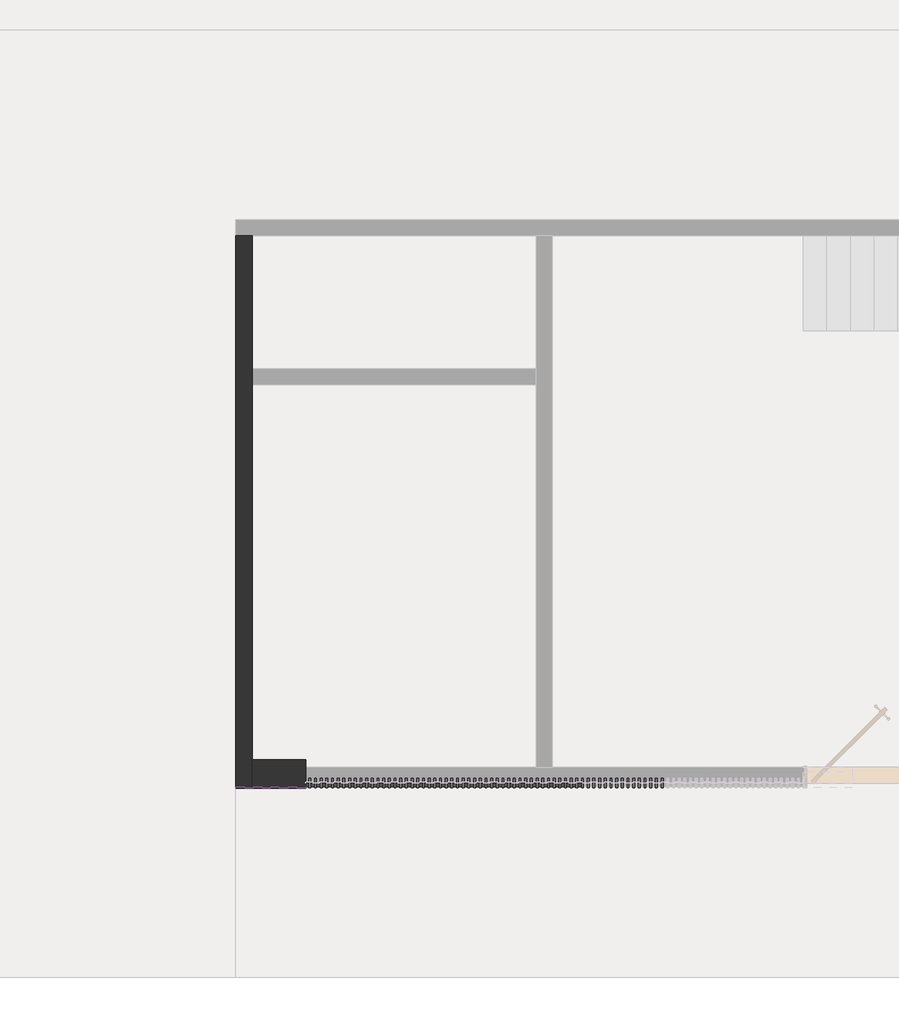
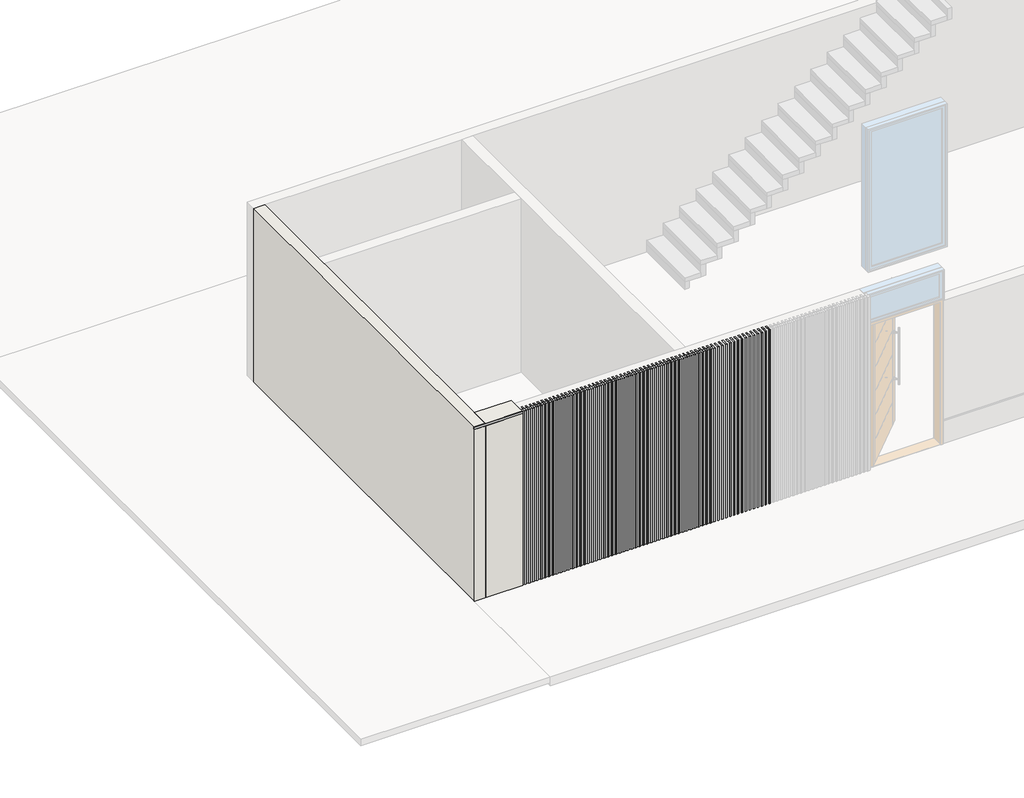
# One storey, part 1 of 4: 63 plates, 49 members, 2 walls, 1 proxy.
"""IFC4 building model written with IfcOpenShell, lengths in millimetres."""

from ifc_helpers import new_model, si_unit, frame, origin, place, context, project, spatial, polyline, outline, extrude, faceted_brep, transform, mapped, element, save
from components import montante_retangular_4dd091b7, painel_do_sistema_vazio_vazio_22f7d0d9

model = new_model("IFC4")

# Units and contexts
model_context = context("Model", 3, world=origin())
ifc_project = project(units=[si_unit("LENGTHUNIT", "METRE", prefix="MILLI")], contexts=[model_context])

# Site, building, storey
site = spatial("IfcSite", under=ifc_project)
building = spatial("IfcBuilding", under=site)
storey = spatial("IfcBuildingStorey", under=building, Name="TÉRREO", Elevation=100.0)

# Proxy
placement = place(None, origin())
element("IfcBuildingElementProxy", 1, Name="FRISO 01", ObjectType="FRISO 01", at=placement, inside=storey, context=model_context, shape_type="SweptSolid", body=[
    extrude(outline(polyline([(-13541.5118355, -3233.9118273), (-13541.5118355, -3218.9118273), (-12806.5118355, -3218.9118273), (-12806.5118355, -3233.9118273), (-13541.5118355, -3233.9118273)])), frame((0.0, 0.0, 2870.0), z_axis=(0.0, 0.0, 1.0), x_axis=(1.0, 0.0, 0.0)), (0.0, 0.0, 1.0), 30.0),
])

# Members
montante_retangular_shape = montante_retangular_4dd091b7(model_context)
element("IfcMember", 2, ObjectType="Montante retangular : RIPADO CUMARU 4x4", at=placement, inside=storey, context=model_context, shape_type="MappedRepresentation", body=[
    mapped(montante_retangular_shape, transform((-10151.5118358, -3183.0556256, 100.0), x_axis=(-1.0, 0.0, 0.0), y_axis=(0.0, 1.0, 0.0), z_axis=(0.0, 0.0, -1.0))),
])
element("IfcMember", 3, ObjectType="Montante retangular : RIPADO CUMARU 4x4", at=placement, inside=storey, context=model_context, shape_type="MappedRepresentation", body=[
    mapped(montante_retangular_shape, transform((-10211.5118358, -3183.0556256, 100.0), x_axis=(-1.0, 0.0, 0.0), y_axis=(0.0, 1.0, 0.0), z_axis=(0.0, 0.0, -1.0))),
])
element("IfcMember", 4, ObjectType="Montante retangular : RIPADO CUMARU 4x4", at=placement, inside=storey, context=model_context, shape_type="MappedRepresentation", body=[
    mapped(montante_retangular_shape, transform((-10271.5118358, -3183.0556256, 100.0), x_axis=(-1.0, 0.0, 0.0), y_axis=(0.0, 1.0, 0.0), z_axis=(0.0, 0.0, -1.0))),
])
element("IfcMember", 5, ObjectType="Montante retangular : RIPADO CUMARU 4x4", at=placement, inside=storey, context=model_context, shape_type="MappedRepresentation", body=[
    mapped(montante_retangular_shape, transform((-10331.5118358, -3183.0556256, 100.0), x_axis=(-1.0, 0.0, 0.0), y_axis=(0.0, 1.0, 0.0), z_axis=(0.0, 0.0, -1.0))),
])
element("IfcMember", 6, ObjectType="Montante retangular : RIPADO CUMARU 4x4", at=placement, inside=storey, context=model_context, shape_type="MappedRepresentation", body=[
    mapped(montante_retangular_shape, transform((-10391.5118358, -3183.0556256, 100.0), x_axis=(-1.0, 0.0, 0.0), y_axis=(0.0, 1.0, 0.0), z_axis=(0.0, 0.0, -1.0))),
])
element("IfcMember", 7, ObjectType="Montante retangular : RIPADO CUMARU 4x4", at=placement, inside=storey, context=model_context, shape_type="MappedRepresentation", body=[
    mapped(montante_retangular_shape, transform((-10451.5118358, -3183.0556256, 100.0), x_axis=(-1.0, 0.0, 0.0), y_axis=(0.0, 1.0, 0.0), z_axis=(0.0, 0.0, -1.0))),
])
element("IfcMember", 8, ObjectType="Montante retangular : RIPADO CUMARU 4x4", at=placement, inside=storey, context=model_context, shape_type="MappedRepresentation", body=[
    mapped(montante_retangular_shape, transform((-10511.5118358, -3183.0556256, 100.0), x_axis=(-1.0, 0.0, 0.0), y_axis=(0.0, 1.0, 0.0), z_axis=(0.0, 0.0, -1.0))),
])
element("IfcMember", 9, ObjectType="Montante retangular : RIPADO CUMARU 4x4", at=placement, inside=storey, context=model_context, shape_type="MappedRepresentation", body=[
    mapped(montante_retangular_shape, transform((-10571.5118358, -3183.0556256, 100.0), x_axis=(-1.0, 0.0, 0.0), y_axis=(0.0, 1.0, 0.0), z_axis=(0.0, 0.0, -1.0))),
])
element("IfcMember", 10, ObjectType="Montante retangular : RIPADO CUMARU 4x4", at=placement, inside=storey, context=model_context, shape_type="MappedRepresentation", body=[
    mapped(montante_retangular_shape, transform((-10631.5118358, -3183.0556256, 100.0), x_axis=(-1.0, 0.0, 0.0), y_axis=(0.0, 1.0, 0.0), z_axis=(0.0, 0.0, -1.0))),
])
element("IfcMember", 11, ObjectType="Montante retangular : RIPADO CUMARU 4x4", at=placement, inside=storey, context=model_context, shape_type="MappedRepresentation", body=[
    mapped(montante_retangular_shape, transform((-10691.5118358, -3183.0556256, 100.0), x_axis=(-1.0, 0.0, 0.0), y_axis=(0.0, 1.0, 0.0), z_axis=(0.0, 0.0, -1.0))),
])
element("IfcMember", 12, ObjectType="Montante retangular : RIPADO CUMARU 4x4", at=placement, inside=storey, context=model_context, shape_type="MappedRepresentation", body=[
    mapped(montante_retangular_shape, transform((-10751.5118358, -3183.0556256, 100.0), x_axis=(-1.0, 0.0, 0.0), y_axis=(0.0, 1.0, 0.0), z_axis=(0.0, 0.0, -1.0))),
])
element("IfcMember", 13, ObjectType="Montante retangular : RIPADO CUMARU 4x4", at=placement, inside=storey, context=model_context, shape_type="MappedRepresentation", body=[
    mapped(montante_retangular_shape, transform((-10811.5118358, -3183.0556256, 100.0), x_axis=(-1.0, 0.0, 0.0), y_axis=(0.0, 1.0, 0.0), z_axis=(0.0, 0.0, -1.0))),
])
element("IfcMember", 14, ObjectType="Montante retangular : RIPADO CUMARU 4x4", at=placement, inside=storey, context=model_context, shape_type="MappedRepresentation", body=[
    mapped(montante_retangular_shape, transform((-10871.5118358, -3183.0556256, 100.0), x_axis=(-1.0, 0.0, 0.0), y_axis=(0.0, 1.0, 0.0), z_axis=(0.0, 0.0, -1.0))),
])
element("IfcMember", 15, ObjectType="Montante retangular : RIPADO CUMARU 4x4", at=placement, inside=storey, context=model_context, shape_type="MappedRepresentation", body=[
    mapped(montante_retangular_shape, transform((-10931.5118358, -3183.0556256, 100.0), x_axis=(-1.0, 0.0, 0.0), y_axis=(0.0, 1.0, 0.0), z_axis=(0.0, 0.0, -1.0))),
])
element("IfcMember", 16, ObjectType="Montante retangular : RIPADO CUMARU 4x4", at=placement, inside=storey, context=model_context, shape_type="MappedRepresentation", body=[
    mapped(montante_retangular_shape, transform((-10991.5118358, -3183.0556256, 100.0), x_axis=(-1.0, 0.0, 0.0), y_axis=(0.0, 1.0, 0.0), z_axis=(0.0, 0.0, -1.0))),
])
element("IfcMember", 17, ObjectType="Montante retangular : RIPADO CUMARU 4x4", at=placement, inside=storey, context=model_context, shape_type="MappedRepresentation", body=[
    mapped(montante_retangular_shape, transform((-11051.5118358, -3183.0556256, 100.0), x_axis=(-1.0, 0.0, 0.0), y_axis=(0.0, 1.0, 0.0), z_axis=(0.0, 0.0, -1.0))),
])
element("IfcMember", 18, ObjectType="Montante retangular : RIPADO CUMARU 4x4", at=placement, inside=storey, context=model_context, shape_type="MappedRepresentation", body=[
    mapped(montante_retangular_shape, transform((-11111.5118358, -3183.0556256, 100.0), x_axis=(-1.0, 0.0, 0.0), y_axis=(0.0, 1.0, 0.0), z_axis=(0.0, 0.0, -1.0))),
])
element("IfcMember", 19, ObjectType="Montante retangular : RIPADO CUMARU 4x4", at=placement, inside=storey, context=model_context, shape_type="MappedRepresentation", body=[
    mapped(montante_retangular_shape, transform((-11171.5118358, -3183.0556256, 100.0), x_axis=(-1.0, 0.0, 0.0), y_axis=(0.0, 1.0, 0.0), z_axis=(0.0, 0.0, -1.0))),
])
element("IfcMember", 20, ObjectType="Montante retangular : RIPADO CUMARU 4x4", at=placement, inside=storey, context=model_context, shape_type="MappedRepresentation", body=[
    mapped(montante_retangular_shape, transform((-11231.5118358, -3183.0556256, 100.0), x_axis=(-1.0, 0.0, 0.0), y_axis=(0.0, 1.0, 0.0), z_axis=(0.0, 0.0, -1.0))),
])
element("IfcMember", 21, ObjectType="Montante retangular : RIPADO CUMARU 4x4", at=placement, inside=storey, context=model_context, shape_type="MappedRepresentation", body=[
    mapped(montante_retangular_shape, transform((-11291.5118358, -3183.0556256, 100.0), x_axis=(-1.0, 0.0, 0.0), y_axis=(0.0, 1.0, 0.0), z_axis=(0.0, 0.0, -1.0))),
])
element("IfcMember", 22, ObjectType="Montante retangular : RIPADO CUMARU 4x4", at=placement, inside=storey, context=model_context, shape_type="MappedRepresentation", body=[
    mapped(montante_retangular_shape, transform((-11351.5118358, -3183.0556256, 100.0), x_axis=(-1.0, 0.0, 0.0), y_axis=(0.0, 1.0, 0.0), z_axis=(0.0, 0.0, -1.0))),
])
element("IfcMember", 23, ObjectType="Montante retangular : RIPADO CUMARU 4x4", at=placement, inside=storey, context=model_context, shape_type="MappedRepresentation", body=[
    mapped(montante_retangular_shape, transform((-11411.5118358, -3183.0556256, 100.0), x_axis=(-1.0, 0.0, 0.0), y_axis=(0.0, 1.0, 0.0), z_axis=(0.0, 0.0, -1.0))),
])
element("IfcMember", 24, ObjectType="Montante retangular : RIPADO CUMARU 4x4", at=placement, inside=storey, context=model_context, shape_type="MappedRepresentation", body=[
    mapped(montante_retangular_shape, transform((-11471.5118358, -3183.0556256, 100.0), x_axis=(-1.0, 0.0, 0.0), y_axis=(0.0, 1.0, 0.0), z_axis=(0.0, 0.0, -1.0))),
])
element("IfcMember", 25, ObjectType="Montante retangular : RIPADO CUMARU 4x4", at=placement, inside=storey, context=model_context, shape_type="MappedRepresentation", body=[
    mapped(montante_retangular_shape, transform((-11531.5118358, -3183.0556256, 100.0), x_axis=(-1.0, 0.0, 0.0), y_axis=(0.0, 1.0, 0.0), z_axis=(0.0, 0.0, -1.0))),
])
element("IfcMember", 26, ObjectType="Montante retangular : RIPADO CUMARU 4x4", at=placement, inside=storey, context=model_context, shape_type="MappedRepresentation", body=[
    mapped(montante_retangular_shape, transform((-11591.5118358, -3183.0556256, 100.0), x_axis=(-1.0, 0.0, 0.0), y_axis=(0.0, 1.0, 0.0), z_axis=(0.0, 0.0, -1.0))),
])
element("IfcMember", 27, ObjectType="Montante retangular : RIPADO CUMARU 4x4", at=placement, inside=storey, context=model_context, shape_type="MappedRepresentation", body=[
    mapped(montante_retangular_shape, transform((-11651.5118358, -3183.0556256, 100.0), x_axis=(-1.0, 0.0, 0.0), y_axis=(0.0, 1.0, 0.0), z_axis=(0.0, 0.0, -1.0))),
])
element("IfcMember", 28, ObjectType="Montante retangular : RIPADO CUMARU 4x4", at=placement, inside=storey, context=model_context, shape_type="MappedRepresentation", body=[
    mapped(montante_retangular_shape, transform((-11711.5118358, -3183.0556256, 100.0), x_axis=(-1.0, 0.0, 0.0), y_axis=(0.0, 1.0, 0.0), z_axis=(0.0, 0.0, -1.0))),
])
element("IfcMember", 29, ObjectType="Montante retangular : RIPADO CUMARU 4x4", at=placement, inside=storey, context=model_context, shape_type="MappedRepresentation", body=[
    mapped(montante_retangular_shape, transform((-11771.5118358, -3183.0556256, 100.0), x_axis=(-1.0, 0.0, 0.0), y_axis=(0.0, 1.0, 0.0), z_axis=(0.0, 0.0, -1.0))),
])
element("IfcMember", 30, ObjectType="Montante retangular : RIPADO CUMARU 4x4", at=placement, inside=storey, context=model_context, shape_type="MappedRepresentation", body=[
    mapped(montante_retangular_shape, transform((-11831.5118358, -3183.0556256, 100.0), x_axis=(-1.0, 0.0, 0.0), y_axis=(0.0, 1.0, 0.0), z_axis=(0.0, 0.0, -1.0))),
])
element("IfcMember", 31, ObjectType="Montante retangular : RIPADO CUMARU 4x4", at=placement, inside=storey, context=model_context, shape_type="MappedRepresentation", body=[
    mapped(montante_retangular_shape, transform((-11891.5118358, -3183.0556256, 100.0), x_axis=(-1.0, 0.0, 0.0), y_axis=(0.0, 1.0, 0.0), z_axis=(0.0, 0.0, -1.0))),
])
element("IfcMember", 32, ObjectType="Montante retangular : RIPADO CUMARU 4x4", at=placement, inside=storey, context=model_context, shape_type="MappedRepresentation", body=[
    mapped(montante_retangular_shape, transform((-11951.5118358, -3183.0556256, 100.0), x_axis=(-1.0, 0.0, 0.0), y_axis=(0.0, 1.0, 0.0), z_axis=(0.0, 0.0, -1.0))),
])
element("IfcMember", 33, ObjectType="Montante retangular : RIPADO CUMARU 4x4", at=placement, inside=storey, context=model_context, shape_type="MappedRepresentation", body=[
    mapped(montante_retangular_shape, transform((-12011.5118358, -3183.0556256, 100.0), x_axis=(-1.0, 0.0, 0.0), y_axis=(0.0, 1.0, 0.0), z_axis=(0.0, 0.0, -1.0))),
])
element("IfcMember", 34, ObjectType="Montante retangular : RIPADO CUMARU 4x4", at=placement, inside=storey, context=model_context, shape_type="MappedRepresentation", body=[
    mapped(montante_retangular_shape, transform((-12071.5118358, -3183.0556256, 100.0), x_axis=(-1.0, 0.0, 0.0), y_axis=(0.0, 1.0, 0.0), z_axis=(0.0, 0.0, -1.0))),
])
element("IfcMember", 35, ObjectType="Montante retangular : RIPADO CUMARU 4x4", at=placement, inside=storey, context=model_context, shape_type="MappedRepresentation", body=[
    mapped(montante_retangular_shape, transform((-12131.5118358, -3183.0556256, 100.0), x_axis=(-1.0, 0.0, 0.0), y_axis=(0.0, 1.0, 0.0), z_axis=(0.0, 0.0, -1.0))),
])
element("IfcMember", 36, ObjectType="Montante retangular : RIPADO CUMARU 4x4", at=placement, inside=storey, context=model_context, shape_type="MappedRepresentation", body=[
    mapped(montante_retangular_shape, transform((-12191.5118358, -3183.0556256, 100.0), x_axis=(-1.0, 0.0, 0.0), y_axis=(0.0, 1.0, 0.0), z_axis=(0.0, 0.0, -1.0))),
])
element("IfcMember", 37, ObjectType="Montante retangular : RIPADO CUMARU 4x4", at=placement, inside=storey, context=model_context, shape_type="MappedRepresentation", body=[
    mapped(montante_retangular_shape, transform((-12251.5118358, -3183.0556256, 100.0), x_axis=(-1.0, 0.0, 0.0), y_axis=(0.0, 1.0, 0.0), z_axis=(0.0, 0.0, -1.0))),
])
element("IfcMember", 38, ObjectType="Montante retangular : RIPADO CUMARU 4x4", at=placement, inside=storey, context=model_context, shape_type="MappedRepresentation", body=[
    mapped(montante_retangular_shape, transform((-12311.5118358, -3183.0556256, 100.0), x_axis=(-1.0, 0.0, 0.0), y_axis=(0.0, 1.0, 0.0), z_axis=(0.0, 0.0, -1.0))),
])
element("IfcMember", 39, ObjectType="Montante retangular : RIPADO CUMARU 4x4", at=placement, inside=storey, context=model_context, shape_type="MappedRepresentation", body=[
    mapped(montante_retangular_shape, transform((-12371.5118358, -3183.0556256, 100.0), x_axis=(-1.0, 0.0, 0.0), y_axis=(0.0, 1.0, 0.0), z_axis=(0.0, 0.0, -1.0))),
])
element("IfcMember", 40, ObjectType="Montante retangular : RIPADO CUMARU 4x4", at=placement, inside=storey, context=model_context, shape_type="MappedRepresentation", body=[
    mapped(montante_retangular_shape, transform((-12431.5118358, -3183.0556256, 100.0), x_axis=(-1.0, 0.0, 0.0), y_axis=(0.0, 1.0, 0.0), z_axis=(0.0, 0.0, -1.0))),
])
element("IfcMember", 41, ObjectType="Montante retangular : RIPADO CUMARU 4x4", at=placement, inside=storey, context=model_context, shape_type="MappedRepresentation", body=[
    mapped(montante_retangular_shape, transform((-12491.5118358, -3183.0556256, 100.0), x_axis=(-1.0, 0.0, 0.0), y_axis=(0.0, 1.0, 0.0), z_axis=(0.0, 0.0, -1.0))),
])
element("IfcMember", 42, ObjectType="Montante retangular : RIPADO CUMARU 4x4", at=placement, inside=storey, context=model_context, shape_type="MappedRepresentation", body=[
    mapped(montante_retangular_shape, transform((-12551.5118358, -3183.0556256, 100.0), x_axis=(-1.0, 0.0, 0.0), y_axis=(0.0, 1.0, 0.0), z_axis=(0.0, 0.0, -1.0))),
])
element("IfcMember", 43, ObjectType="Montante retangular : RIPADO CUMARU 4x4", at=placement, inside=storey, context=model_context, shape_type="MappedRepresentation", body=[
    mapped(montante_retangular_shape, transform((-12611.5118358, -3183.0556256, 100.0), x_axis=(-1.0, 0.0, 0.0), y_axis=(0.0, 1.0, 0.0), z_axis=(0.0, 0.0, -1.0))),
])
element("IfcMember", 44, ObjectType="Montante retangular : RIPADO CUMARU 4x4", at=placement, inside=storey, context=model_context, shape_type="MappedRepresentation", body=[
    mapped(montante_retangular_shape, transform((-12671.5118358, -3183.0556256, 100.0), x_axis=(-1.0, 0.0, 0.0), y_axis=(0.0, 1.0, 0.0), z_axis=(0.0, 0.0, -1.0))),
])
element("IfcMember", 45, ObjectType="Montante retangular : RIPADO CUMARU 4x4", at=placement, inside=storey, context=model_context, shape_type="MappedRepresentation", body=[
    mapped(montante_retangular_shape, transform((-12731.5118358, -3183.0556256, 100.0), x_axis=(-1.0, 0.0, 0.0), y_axis=(0.0, 1.0, 0.0), z_axis=(0.0, 0.0, -1.0))),
])
element("IfcMember", 46, ObjectType="Montante retangular : RIPADO CUMARU 4x4", at=placement, inside=storey, context=model_context, shape_type="MappedRepresentation", body=[
    mapped(montante_retangular_shape, transform((-12791.5118358, -3183.0556256, 100.0), x_axis=(-1.0, 0.0, 0.0), y_axis=(0.0, 1.0, 0.0), z_axis=(0.0, 0.0, -1.0))),
])
element("IfcMember", 47, ObjectType="Montante retangular : RIPADO CUMARU 4x4", at=placement, inside=storey, context=model_context, shape_type="MappedRepresentation", body=[
    mapped(montante_retangular_shape, transform((-10091.5118358, -3183.0556256, 100.0), x_axis=(-1.0, 0.0, 0.0), y_axis=(0.0, 1.0, 0.0), z_axis=(0.0, 0.0, -1.0))),
])
element("IfcMember", 48, ObjectType="Montante retangular : RIPADO CUMARU 4x4", at=placement, inside=storey, context=model_context, shape_type="MappedRepresentation", body=[
    mapped(montante_retangular_shape, transform((-10031.5118358, -3183.0556256, 100.0), x_axis=(-1.0, 0.0, 0.0), y_axis=(0.0, 1.0, 0.0), z_axis=(0.0, 0.0, -1.0))),
])
element("IfcMember", 49, ObjectType="Montante retangular : RIPADO CUMARU 4x4", at=placement, inside=storey, context=model_context, shape_type="MappedRepresentation", body=[
    mapped(montante_retangular_shape, transform((-9971.5118358, -3183.0556256, 100.0), x_axis=(-1.0, 0.0, 0.0), y_axis=(0.0, 1.0, 0.0), z_axis=(0.0, 0.0, -1.0))),
])
element("IfcMember", 50, ObjectType="Montante retangular : RIPADO CUMARU 4x4", at=placement, inside=storey, context=model_context, shape_type="MappedRepresentation", body=[
    mapped(montante_retangular_shape, transform((-9911.5118358, -3183.0556256, 100.0), x_axis=(-1.0, 0.0, 0.0), y_axis=(0.0, 1.0, 0.0), z_axis=(0.0, 0.0, -1.0))),
])

# Plates
painel_do_sistema_vazio_vazio_shape = painel_do_sistema_vazio_vazio_22f7d0d9(model_context)
element("IfcPlate", 51, ObjectType="Painel do sistema vazio : Vazio", at=placement, inside=storey, context=model_context, shape_type="MappedRepresentation", body=[
    mapped(painel_do_sistema_vazio_vazio_shape, transform((-10181.5118358, -3183.0556256, 100.0), x_axis=(-1.0, 0.0, 0.0), y_axis=(0.0, -1.0, 0.0), z_axis=(0.0, 0.0, 1.0))),
])
element("IfcPlate", 52, ObjectType="Painel do sistema vazio : Vazio", at=placement, inside=storey, context=model_context, shape_type="MappedRepresentation", body=[
    mapped(painel_do_sistema_vazio_vazio_shape, transform((-10241.5118358, -3183.0556256, 100.0), x_axis=(-1.0, 0.0, 0.0), y_axis=(0.0, -1.0, 0.0), z_axis=(0.0, 0.0, 1.0))),
])
element("IfcPlate", 53, ObjectType="Painel do sistema vazio : Vazio", at=placement, inside=storey, context=model_context, shape_type="MappedRepresentation", body=[
    mapped(painel_do_sistema_vazio_vazio_shape, transform((-10301.5118358, -3183.0556256, 100.0), x_axis=(-1.0, 0.0, 0.0), y_axis=(0.0, -1.0, 0.0), z_axis=(0.0, 0.0, 1.0))),
])
element("IfcPlate", 54, ObjectType="Painel do sistema vazio : Vazio", at=placement, inside=storey, context=model_context, shape_type="MappedRepresentation", body=[
    mapped(painel_do_sistema_vazio_vazio_shape, transform((-10361.5118358, -3183.0556256, 100.0), x_axis=(-1.0, 0.0, 0.0), y_axis=(0.0, -1.0, 0.0), z_axis=(0.0, 0.0, 1.0))),
])
element("IfcPlate", 55, ObjectType="Painel do sistema vazio : Vazio", at=placement, inside=storey, context=model_context, shape_type="MappedRepresentation", body=[
    mapped(painel_do_sistema_vazio_vazio_shape, transform((-10421.5118358, -3183.0556256, 100.0), x_axis=(-1.0, 0.0, 0.0), y_axis=(0.0, -1.0, 0.0), z_axis=(0.0, 0.0, 1.0))),
])
element("IfcPlate", 56, ObjectType="Painel do sistema vazio : Vazio", at=placement, inside=storey, context=model_context, shape_type="MappedRepresentation", body=[
    mapped(painel_do_sistema_vazio_vazio_shape, transform((-10481.5118358, -3183.0556256, 100.0), x_axis=(-1.0, 0.0, 0.0), y_axis=(0.0, -1.0, 0.0), z_axis=(0.0, 0.0, 1.0))),
])
element("IfcPlate", 57, ObjectType="Painel do sistema vazio : Vazio", at=placement, inside=storey, context=model_context, shape_type="MappedRepresentation", body=[
    mapped(painel_do_sistema_vazio_vazio_shape, transform((-10541.5118358, -3183.0556256, 100.0), x_axis=(-1.0, 0.0, 0.0), y_axis=(0.0, -1.0, 0.0), z_axis=(0.0, 0.0, 1.0))),
])
element("IfcPlate", 58, ObjectType="Painel do sistema vazio : Vazio", at=placement, inside=storey, context=model_context, shape_type="MappedRepresentation", body=[
    mapped(painel_do_sistema_vazio_vazio_shape, transform((-10601.5118358, -3183.0556256, 100.0), x_axis=(-1.0, 0.0, 0.0), y_axis=(0.0, -1.0, 0.0), z_axis=(0.0, 0.0, 1.0))),
])
element("IfcPlate", 59, ObjectType="Painel do sistema vazio : Vazio", at=placement, inside=storey, context=model_context, shape_type="MappedRepresentation", body=[
    mapped(painel_do_sistema_vazio_vazio_shape, transform((-10661.5118358, -3183.0556256, 100.0), x_axis=(-1.0, 0.0, 0.0), y_axis=(0.0, -1.0, 0.0), z_axis=(0.0, 0.0, 1.0))),
])
element("IfcPlate", 60, ObjectType="Painel do sistema vazio : Vazio", at=placement, inside=storey, context=model_context, shape_type="MappedRepresentation", body=[
    mapped(painel_do_sistema_vazio_vazio_shape, transform((-10721.5118358, -3183.0556256, 100.0), x_axis=(-1.0, 0.0, 0.0), y_axis=(0.0, -1.0, 0.0), z_axis=(0.0, 0.0, 1.0))),
])
element("IfcPlate", 61, ObjectType="Painel do sistema vazio : Vazio", at=placement, inside=storey, context=model_context, shape_type="MappedRepresentation", body=[
    mapped(painel_do_sistema_vazio_vazio_shape, transform((-10781.5118358, -3183.0556256, 100.0), x_axis=(-1.0, 0.0, 0.0), y_axis=(0.0, -1.0, 0.0), z_axis=(0.0, 0.0, 1.0))),
])
element("IfcPlate", 62, ObjectType="Painel do sistema vazio : Vazio", at=placement, inside=storey, context=model_context, shape_type="MappedRepresentation", body=[
    mapped(painel_do_sistema_vazio_vazio_shape, transform((-10841.5118358, -3183.0556256, 100.0), x_axis=(-1.0, 0.0, 0.0), y_axis=(0.0, -1.0, 0.0), z_axis=(0.0, 0.0, 1.0))),
])
element("IfcPlate", 63, ObjectType="Painel do sistema vazio : Vazio", at=placement, inside=storey, context=model_context, shape_type="MappedRepresentation", body=[
    mapped(painel_do_sistema_vazio_vazio_shape, transform((-10901.5118358, -3183.0556256, 100.0), x_axis=(-1.0, 0.0, 0.0), y_axis=(0.0, -1.0, 0.0), z_axis=(0.0, 0.0, 1.0))),
])
element("IfcPlate", 64, ObjectType="Painel do sistema vazio : Vazio", at=placement, inside=storey, context=model_context, shape_type="MappedRepresentation", body=[
    mapped(painel_do_sistema_vazio_vazio_shape, transform((-10961.5118358, -3183.0556256, 100.0), x_axis=(-1.0, 0.0, 0.0), y_axis=(0.0, -1.0, 0.0), z_axis=(0.0, 0.0, 1.0))),
])
element("IfcPlate", 65, ObjectType="Painel do sistema vazio : Vazio", at=placement, inside=storey, context=model_context, shape_type="MappedRepresentation", body=[
    mapped(painel_do_sistema_vazio_vazio_shape, transform((-11021.5118358, -3183.0556256, 100.0), x_axis=(-1.0, 0.0, 0.0), y_axis=(0.0, -1.0, 0.0), z_axis=(0.0, 0.0, 1.0))),
])
element("IfcPlate", 66, ObjectType="Painel do sistema vazio : Vazio", at=placement, inside=storey, context=model_context, shape_type="MappedRepresentation", body=[
    mapped(painel_do_sistema_vazio_vazio_shape, transform((-11081.5118358, -3183.0556256, 100.0), x_axis=(-1.0, 0.0, 0.0), y_axis=(0.0, -1.0, 0.0), z_axis=(0.0, 0.0, 1.0))),
])
element("IfcPlate", 67, ObjectType="Painel do sistema vazio : Vazio", at=placement, inside=storey, context=model_context, shape_type="MappedRepresentation", body=[
    mapped(painel_do_sistema_vazio_vazio_shape, transform((-11141.5118358, -3183.0556256, 100.0), x_axis=(-1.0, 0.0, 0.0), y_axis=(0.0, -1.0, 0.0), z_axis=(0.0, 0.0, 1.0))),
])
element("IfcPlate", 68, ObjectType="Painel do sistema vazio : Vazio", at=placement, inside=storey, context=model_context, shape_type="MappedRepresentation", body=[
    mapped(painel_do_sistema_vazio_vazio_shape, transform((-11201.5118358, -3183.0556256, 100.0), x_axis=(-1.0, 0.0, 0.0), y_axis=(0.0, -1.0, 0.0), z_axis=(0.0, 0.0, 1.0))),
])
element("IfcPlate", 69, ObjectType="Painel do sistema vazio : Vazio", at=placement, inside=storey, context=model_context, shape_type="MappedRepresentation", body=[
    mapped(painel_do_sistema_vazio_vazio_shape, transform((-11261.5118358, -3183.0556256, 100.0), x_axis=(-1.0, 0.0, 0.0), y_axis=(0.0, -1.0, 0.0), z_axis=(0.0, 0.0, 1.0))),
])
element("IfcPlate", 70, ObjectType="Painel do sistema vazio : Vazio", at=placement, inside=storey, context=model_context, shape_type="MappedRepresentation", body=[
    mapped(painel_do_sistema_vazio_vazio_shape, transform((-11321.5118358, -3183.0556256, 100.0), x_axis=(-1.0, 0.0, 0.0), y_axis=(0.0, -1.0, 0.0), z_axis=(0.0, 0.0, 1.0))),
])
element("IfcPlate", 71, ObjectType="Painel do sistema vazio : Vazio", at=placement, inside=storey, context=model_context, shape_type="MappedRepresentation", body=[
    mapped(painel_do_sistema_vazio_vazio_shape, transform((-11381.5118358, -3183.0556256, 100.0), x_axis=(-1.0, 0.0, 0.0), y_axis=(0.0, -1.0, 0.0), z_axis=(0.0, 0.0, 1.0))),
])
element("IfcPlate", 72, ObjectType="Painel do sistema vazio : Vazio", at=placement, inside=storey, context=model_context, shape_type="MappedRepresentation", body=[
    mapped(painel_do_sistema_vazio_vazio_shape, transform((-11441.5118358, -3183.0556256, 100.0), x_axis=(-1.0, 0.0, 0.0), y_axis=(0.0, -1.0, 0.0), z_axis=(0.0, 0.0, 1.0))),
])
element("IfcPlate", 73, ObjectType="Painel do sistema vazio : Vazio", at=placement, inside=storey, context=model_context, shape_type="MappedRepresentation", body=[
    mapped(painel_do_sistema_vazio_vazio_shape, transform((-11501.5118358, -3183.0556256, 100.0), x_axis=(-1.0, 0.0, 0.0), y_axis=(0.0, -1.0, 0.0), z_axis=(0.0, 0.0, 1.0))),
])
element("IfcPlate", 74, ObjectType="Painel do sistema vazio : Vazio", at=placement, inside=storey, context=model_context, shape_type="MappedRepresentation", body=[
    mapped(painel_do_sistema_vazio_vazio_shape, transform((-11561.5118358, -3183.0556256, 100.0), x_axis=(-1.0, 0.0, 0.0), y_axis=(0.0, -1.0, 0.0), z_axis=(0.0, 0.0, 1.0))),
])
element("IfcPlate", 75, ObjectType="Painel do sistema vazio : Vazio", at=placement, inside=storey, context=model_context, shape_type="MappedRepresentation", body=[
    mapped(painel_do_sistema_vazio_vazio_shape, transform((-11621.5118358, -3183.0556256, 100.0), x_axis=(-1.0, 0.0, 0.0), y_axis=(0.0, -1.0, 0.0), z_axis=(0.0, 0.0, 1.0))),
])
element("IfcPlate", 76, ObjectType="Painel do sistema vazio : Vazio", at=placement, inside=storey, context=model_context, shape_type="MappedRepresentation", body=[
    mapped(painel_do_sistema_vazio_vazio_shape, transform((-11681.5118358, -3183.0556256, 100.0), x_axis=(-1.0, 0.0, 0.0), y_axis=(0.0, -1.0, 0.0), z_axis=(0.0, 0.0, 1.0))),
])
element("IfcPlate", 77, ObjectType="Painel do sistema vazio : Vazio", at=placement, inside=storey, context=model_context, shape_type="MappedRepresentation", body=[
    mapped(painel_do_sistema_vazio_vazio_shape, transform((-11741.5118358, -3183.0556256, 100.0), x_axis=(-1.0, 0.0, 0.0), y_axis=(0.0, -1.0, 0.0), z_axis=(0.0, 0.0, 1.0))),
])
element("IfcPlate", 78, ObjectType="Painel do sistema vazio : Vazio", at=placement, inside=storey, context=model_context, shape_type="MappedRepresentation", body=[
    mapped(painel_do_sistema_vazio_vazio_shape, transform((-11801.5118358, -3183.0556256, 100.0), x_axis=(-1.0, 0.0, 0.0), y_axis=(0.0, -1.0, 0.0), z_axis=(0.0, 0.0, 1.0))),
])
element("IfcPlate", 79, ObjectType="Painel do sistema vazio : Vazio", at=placement, inside=storey, context=model_context, shape_type="MappedRepresentation", body=[
    mapped(painel_do_sistema_vazio_vazio_shape, transform((-11861.5118358, -3183.0556256, 100.0), x_axis=(-1.0, 0.0, 0.0), y_axis=(0.0, -1.0, 0.0), z_axis=(0.0, 0.0, 1.0))),
])
element("IfcPlate", 80, ObjectType="Painel do sistema vazio : Vazio", at=placement, inside=storey, context=model_context, shape_type="MappedRepresentation", body=[
    mapped(painel_do_sistema_vazio_vazio_shape, transform((-11921.5118358, -3183.0556256, 100.0), x_axis=(-1.0, 0.0, 0.0), y_axis=(0.0, -1.0, 0.0), z_axis=(0.0, 0.0, 1.0))),
])
element("IfcPlate", 81, ObjectType="Painel do sistema vazio : Vazio", at=placement, inside=storey, context=model_context, shape_type="MappedRepresentation", body=[
    mapped(painel_do_sistema_vazio_vazio_shape, transform((-11981.5118358, -3183.0556256, 100.0), x_axis=(-1.0, 0.0, 0.0), y_axis=(0.0, -1.0, 0.0), z_axis=(0.0, 0.0, 1.0))),
])
element("IfcPlate", 82, ObjectType="Painel do sistema vazio : Vazio", at=placement, inside=storey, context=model_context, shape_type="MappedRepresentation", body=[
    mapped(painel_do_sistema_vazio_vazio_shape, transform((-12041.5118358, -3183.0556256, 100.0), x_axis=(-1.0, 0.0, 0.0), y_axis=(0.0, -1.0, 0.0), z_axis=(0.0, 0.0, 1.0))),
])
element("IfcPlate", 83, ObjectType="Painel do sistema vazio : Vazio", at=placement, inside=storey, context=model_context, shape_type="MappedRepresentation", body=[
    mapped(painel_do_sistema_vazio_vazio_shape, transform((-12101.5118358, -3183.0556256, 100.0), x_axis=(-1.0, 0.0, 0.0), y_axis=(0.0, -1.0, 0.0), z_axis=(0.0, 0.0, 1.0))),
])
element("IfcPlate", 84, ObjectType="Painel do sistema vazio : Vazio", at=placement, inside=storey, context=model_context, shape_type="MappedRepresentation", body=[
    mapped(painel_do_sistema_vazio_vazio_shape, transform((-12161.5118358, -3183.0556256, 100.0), x_axis=(-1.0, 0.0, 0.0), y_axis=(0.0, -1.0, 0.0), z_axis=(0.0, 0.0, 1.0))),
])
element("IfcPlate", 85, ObjectType="Painel do sistema vazio : Vazio", at=placement, inside=storey, context=model_context, shape_type="MappedRepresentation", body=[
    mapped(painel_do_sistema_vazio_vazio_shape, transform((-12221.5118358, -3183.0556256, 100.0), x_axis=(-1.0, 0.0, 0.0), y_axis=(0.0, -1.0, 0.0), z_axis=(0.0, 0.0, 1.0))),
])
element("IfcPlate", 86, ObjectType="Painel do sistema vazio : Vazio", at=placement, inside=storey, context=model_context, shape_type="MappedRepresentation", body=[
    mapped(painel_do_sistema_vazio_vazio_shape, transform((-12281.5118358, -3183.0556256, 100.0), x_axis=(-1.0, 0.0, 0.0), y_axis=(0.0, -1.0, 0.0), z_axis=(0.0, 0.0, 1.0))),
])
element("IfcPlate", 87, ObjectType="Painel do sistema vazio : Vazio", at=placement, inside=storey, context=model_context, shape_type="MappedRepresentation", body=[
    mapped(painel_do_sistema_vazio_vazio_shape, transform((-12341.5118358, -3183.0556256, 100.0), x_axis=(-1.0, 0.0, 0.0), y_axis=(0.0, -1.0, 0.0), z_axis=(0.0, 0.0, 1.0))),
])
element("IfcPlate", 88, ObjectType="Painel do sistema vazio : Vazio", at=placement, inside=storey, context=model_context, shape_type="MappedRepresentation", body=[
    mapped(painel_do_sistema_vazio_vazio_shape, transform((-12401.5118358, -3183.0556256, 100.0), x_axis=(-1.0, 0.0, 0.0), y_axis=(0.0, -1.0, 0.0), z_axis=(0.0, 0.0, 1.0))),
])
element("IfcPlate", 89, ObjectType="Painel do sistema vazio : Vazio", at=placement, inside=storey, context=model_context, shape_type="MappedRepresentation", body=[
    mapped(painel_do_sistema_vazio_vazio_shape, transform((-12461.5118358, -3183.0556256, 100.0), x_axis=(-1.0, 0.0, 0.0), y_axis=(0.0, -1.0, 0.0), z_axis=(0.0, 0.0, 1.0))),
])
element("IfcPlate", 90, ObjectType="Painel do sistema vazio : Vazio", at=placement, inside=storey, context=model_context, shape_type="MappedRepresentation", body=[
    mapped(painel_do_sistema_vazio_vazio_shape, transform((-12521.5118358, -3183.0556256, 100.0), x_axis=(-1.0, 0.0, 0.0), y_axis=(0.0, -1.0, 0.0), z_axis=(0.0, 0.0, 1.0))),
])
element("IfcPlate", 91, ObjectType="Painel do sistema vazio : Vazio", at=placement, inside=storey, context=model_context, shape_type="MappedRepresentation", body=[
    mapped(painel_do_sistema_vazio_vazio_shape, transform((-12581.5118358, -3183.0556256, 100.0), x_axis=(-1.0, 0.0, 0.0), y_axis=(0.0, -1.0, 0.0), z_axis=(0.0, 0.0, 1.0))),
])
element("IfcPlate", 92, ObjectType="Painel do sistema vazio : Vazio", at=placement, inside=storey, context=model_context, shape_type="MappedRepresentation", body=[
    mapped(painel_do_sistema_vazio_vazio_shape, transform((-12641.5118358, -3183.0556256, 100.0), x_axis=(-1.0, 0.0, 0.0), y_axis=(0.0, -1.0, 0.0), z_axis=(0.0, 0.0, 1.0))),
])
element("IfcPlate", 93, ObjectType="Painel do sistema vazio : Vazio", at=placement, inside=storey, context=model_context, shape_type="MappedRepresentation", body=[
    mapped(painel_do_sistema_vazio_vazio_shape, transform((-12701.5118358, -3183.0556256, 100.0), x_axis=(-1.0, 0.0, 0.0), y_axis=(0.0, -1.0, 0.0), z_axis=(0.0, 0.0, 1.0))),
])
element("IfcPlate", 94, ObjectType="Painel do sistema vazio : Vazio", at=placement, inside=storey, context=model_context, shape_type="MappedRepresentation", body=[
    mapped(painel_do_sistema_vazio_vazio_shape, transform((-12761.5118358, -3183.0556256, 100.0), x_axis=(-1.0, 0.0, 0.0), y_axis=(0.0, -1.0, 0.0), z_axis=(0.0, 0.0, 1.0))),
])
element("IfcPlate", 95, ObjectType="Painel do sistema vazio : Vazio", at=placement, inside=storey, context=model_context, shape_type="MappedRepresentation", body=[
    mapped(painel_do_sistema_vazio_vazio_shape, transform((-10121.5118358, -3183.0556256, 100.0), x_axis=(-1.0, 0.0, 0.0), y_axis=(0.0, -1.0, 0.0), z_axis=(0.0, 0.0, 1.0))),
])
element("IfcPlate", 96, ObjectType="Painel do sistema vazio : Vazio", at=placement, inside=storey, context=model_context, shape_type="MappedRepresentation", body=[
    mapped(painel_do_sistema_vazio_vazio_shape, transform((-10061.5118358, -3183.0556256, 100.0), x_axis=(-1.0, 0.0, 0.0), y_axis=(0.0, -1.0, 0.0), z_axis=(0.0, 0.0, 1.0))),
])
element("IfcPlate", 97, ObjectType="Painel do sistema vazio : Vazio", at=placement, inside=storey, context=model_context, shape_type="MappedRepresentation", body=[
    mapped(painel_do_sistema_vazio_vazio_shape, transform((-10001.5118358, -3183.0556256, 100.0), x_axis=(-1.0, 0.0, 0.0), y_axis=(0.0, -1.0, 0.0), z_axis=(0.0, 0.0, 1.0))),
])
element("IfcPlate", 98, ObjectType="Painel do sistema vazio : Vazio", at=placement, inside=storey, context=model_context, shape_type="MappedRepresentation", body=[
    mapped(painel_do_sistema_vazio_vazio_shape, transform((-9941.5118358, -3183.0556256, 100.0), x_axis=(-1.0, 0.0, 0.0), y_axis=(0.0, -1.0, 0.0), z_axis=(0.0, 0.0, 1.0))),
])
element("IfcPlate", 99, ObjectType="Painel do sistema vazio : Vazio", at=placement, inside=storey, context=model_context, shape_type="MappedRepresentation", body=[
    mapped(painel_do_sistema_vazio_vazio_shape, transform((-9881.5118358, -3183.0556256, 100.0), x_axis=(-1.0, 0.0, 0.0), y_axis=(0.0, -1.0, 0.0), z_axis=(0.0, 0.0, 1.0))),
])
element("IfcPlate", 100, ObjectType="Painel do sistema vazio : Vazio", at=placement, inside=storey, context=model_context, shape_type="MappedRepresentation", body=[
    mapped(painel_do_sistema_vazio_vazio_shape, transform((-9821.5118358, -3183.0556256, 100.0), x_axis=(-1.0, 0.0, 0.0), y_axis=(0.0, -1.0, 0.0), z_axis=(0.0, 0.0, 1.0))),
])
element("IfcPlate", 101, ObjectType="Painel do sistema vazio : Vazio", at=placement, inside=storey, context=model_context, shape_type="MappedRepresentation", body=[
    mapped(painel_do_sistema_vazio_vazio_shape, transform((-9761.5118358, -3183.0556256, 100.0), x_axis=(-1.0, 0.0, 0.0), y_axis=(0.0, -1.0, 0.0), z_axis=(0.0, 0.0, 1.0))),
])
element("IfcPlate", 102, ObjectType="Painel do sistema vazio : Vazio", at=placement, inside=storey, context=model_context, shape_type="MappedRepresentation", body=[
    mapped(painel_do_sistema_vazio_vazio_shape, transform((-9701.5118358, -3183.0556256, 100.0), x_axis=(-1.0, 0.0, 0.0), y_axis=(0.0, -1.0, 0.0), z_axis=(0.0, 0.0, 1.0))),
])
element("IfcPlate", 103, ObjectType="Painel do sistema vazio : Vazio", at=placement, inside=storey, context=model_context, shape_type="MappedRepresentation", body=[
    mapped(painel_do_sistema_vazio_vazio_shape, transform((-9641.5118358, -3183.0556256, 100.0), x_axis=(-1.0, 0.0, 0.0), y_axis=(0.0, -1.0, 0.0), z_axis=(0.0, 0.0, 1.0))),
])
element("IfcPlate", 104, ObjectType="Painel do sistema vazio : Vazio", at=placement, inside=storey, context=model_context, shape_type="MappedRepresentation", body=[
    mapped(painel_do_sistema_vazio_vazio_shape, transform((-9581.5118358, -3183.0556256, 100.0), x_axis=(-1.0, 0.0, 0.0), y_axis=(0.0, -1.0, 0.0), z_axis=(0.0, 0.0, 1.0))),
])
element("IfcPlate", 105, ObjectType="Painel do sistema vazio : Vazio", at=placement, inside=storey, context=model_context, shape_type="MappedRepresentation", body=[
    mapped(painel_do_sistema_vazio_vazio_shape, transform((-9521.5118358, -3183.0556256, 100.0), x_axis=(-1.0, 0.0, 0.0), y_axis=(0.0, -1.0, 0.0), z_axis=(0.0, 0.0, 1.0))),
])
element("IfcPlate", 106, ObjectType="Painel do sistema vazio : Vazio", at=placement, inside=storey, context=model_context, shape_type="MappedRepresentation", body=[
    mapped(painel_do_sistema_vazio_vazio_shape, transform((-9461.5118358, -3183.0556256, 100.0), x_axis=(-1.0, 0.0, 0.0), y_axis=(0.0, -1.0, 0.0), z_axis=(0.0, 0.0, 1.0))),
])
element("IfcPlate", 107, ObjectType="Painel do sistema vazio : Vazio", at=placement, inside=storey, context=model_context, shape_type="MappedRepresentation", body=[
    mapped(painel_do_sistema_vazio_vazio_shape, transform((-9401.5118358, -3183.0556256, 100.0), x_axis=(-1.0, 0.0, 0.0), y_axis=(0.0, -1.0, 0.0), z_axis=(0.0, 0.0, 1.0))),
])
element("IfcPlate", 108, ObjectType="Painel do sistema vazio : Vazio", at=placement, inside=storey, context=model_context, shape_type="MappedRepresentation", body=[
    mapped(painel_do_sistema_vazio_vazio_shape, transform((-9341.5118358, -3183.0556256, 100.0), x_axis=(-1.0, 0.0, 0.0), y_axis=(0.0, -1.0, 0.0), z_axis=(0.0, 0.0, 1.0))),
])
element("IfcPlate", 109, ObjectType="Painel do sistema vazio : Vazio", at=placement, inside=storey, context=model_context, shape_type="MappedRepresentation", body=[
    mapped(painel_do_sistema_vazio_vazio_shape, transform((-9281.5118358, -3183.0556256, 100.0), x_axis=(-1.0, 0.0, 0.0), y_axis=(0.0, -1.0, 0.0), z_axis=(0.0, 0.0, 1.0))),
])
element("IfcPlate", 110, ObjectType="Painel do sistema vazio : Vazio", at=placement, inside=storey, context=model_context, shape_type="MappedRepresentation", body=[
    mapped(painel_do_sistema_vazio_vazio_shape, transform((-9221.5118358, -3183.0556256, 100.0), x_axis=(-1.0, 0.0, 0.0), y_axis=(0.0, -1.0, 0.0), z_axis=(0.0, 0.0, 1.0))),
])
element("IfcPlate", 111, ObjectType="Painel do sistema vazio : Vazio", at=placement, inside=storey, context=model_context, shape_type="MappedRepresentation", body=[
    mapped(painel_do_sistema_vazio_vazio_shape, transform((-9161.5118358, -3183.0556256, 100.0), x_axis=(-1.0, 0.0, 0.0), y_axis=(0.0, -1.0, 0.0), z_axis=(0.0, 0.0, 1.0))),
])
element("IfcPlate", 112, ObjectType="Painel do sistema vazio : Vazio", at=placement, inside=storey, context=model_context, shape_type="MappedRepresentation", body=[
    mapped(painel_do_sistema_vazio_vazio_shape, transform((-9101.5118358, -3183.0556256, 100.0), x_axis=(-1.0, 0.0, 0.0), y_axis=(0.0, -1.0, 0.0), z_axis=(0.0, 0.0, 1.0))),
])
element("IfcPlate", 113, ObjectType="Painel do sistema vazio : Vazio", at=placement, inside=storey, context=model_context, shape_type="MappedRepresentation", body=[
    mapped(painel_do_sistema_vazio_vazio_shape, transform((-9041.5118358, -3183.0556256, 100.0), x_axis=(-1.0, 0.0, 0.0), y_axis=(0.0, -1.0, 0.0), z_axis=(0.0, 0.0, 1.0))),
])

# Walls
element("IfcWall", 114, ObjectType="Parede Garagem - 30cm", at=placement, inside=storey, context=model_context, shape_type="Brep", body=[
    faceted_brep([(-13371.5118355, -3233.9118273, 100.0), (-12806.5118355, -3233.9118273, 100.0), (-12806.5118355, -3233.9118273, 2870.0), (-13371.5118355, -3233.9118273, 2870.0), (-12806.5118355, -2933.9118273, 100.0), (-13371.5118355, -2933.9118273, 100.0), (-13371.5118355, -2933.9118273, 2900.0), (-12806.5118355, -2933.9118273, 2900.0), (-12806.5118355, -3013.0556256, 100.0), (-12806.5118355, -3183.0556256, 100.0), (-12806.5118355, -3013.0556256, 2900.0), (-12806.5118355, -3168.0556256, 2900.0), (-12806.5118355, -3218.9118273, 2900.0), (-12806.5118355, -3218.9118273, 2870.0), (-12806.5118355, -3168.0556256, 490.0), (-12806.5118355, -3168.0556256, 460.0), (-12806.5118355, -3183.0556256, 460.0), (-12806.5118355, -3183.0556256, 490.0), (-13371.5118355, -3218.9118273, 2870.0), (-13371.5118355, -3218.9118273, 2900.0), (-13356.5118355, -3183.0556256, 460.0), (-13356.5118355, -3168.0556256, 460.0), (-13356.5118355, -3168.0556256, 490.0), (-13356.5118355, -3183.0556256, 490.0)], [[[0, 1, 2, 3]], [[4, 5, 6, 7]], [[1, 0, 5, 4, 8, 9]], [[1, 9, 8, 4, 7, 10, 11, 12, 13, 2], [14, 15, 16, 17]], [[5, 0, 3, 18, 19, 6]], [[7, 6, 19, 12, 11, 10]], [[13, 18, 3, 2]], [[18, 13, 12, 19]], [[20, 21, 22, 23]], [[22, 21, 15, 14]], [[23, 22, 14, 17]], [[20, 23, 17, 16]], [[21, 20, 16, 15]]]),
])
element("IfcWall", 115, ObjectType="Parede Interna - 17 cm - Pintura", at=placement, inside=storey, context=model_context, shape_type="Brep", body=[
    faceted_brep([(-13371.5118355, -3233.9118273, 100.0), (-13371.5118355, -2933.9118273, 100.0), (-13371.5118355, 1026.0881727, 100.0), (-13371.5118355, 1196.0881727, 100.0), (-13371.5118355, 2596.0881727, 100.0), (-13371.5118355, 2596.0881727, 2900.0), (-13371.5118355, 1196.0881727, 2900.0), (-13371.5118355, 1026.0881727, 2900.0), (-13371.5118355, -2933.9118273, 2900.0), (-13371.5118355, -3218.9118273, 2900.0), (-13371.5118355, -3218.9118273, 2870.0), (-13371.5118355, -3233.9118273, 2870.0), (-13541.5118355, 2596.0881727, 100.0), (-13541.5118355, -3233.9118273, 100.0), (-13541.5118355, -3233.9118273, 2870.0), (-13541.5118355, -3218.9118273, 2870.0), (-13541.5118355, -3218.9118273, 2900.0), (-13541.5118355, 2596.0881727, 2900.0)], [[[0, 1, 2, 3, 4, 5, 6, 7, 8, 9, 10, 11]], [[12, 13, 14, 15, 16, 17]], [[4, 3, 2, 1, 0, 13, 12]], [[4, 12, 17, 5]], [[5, 17, 16, 9, 8, 7, 6]], [[13, 0, 11, 14]], [[10, 15, 14, 11]], [[15, 10, 9, 16]]]),
])

save(model, "model.ifc")
